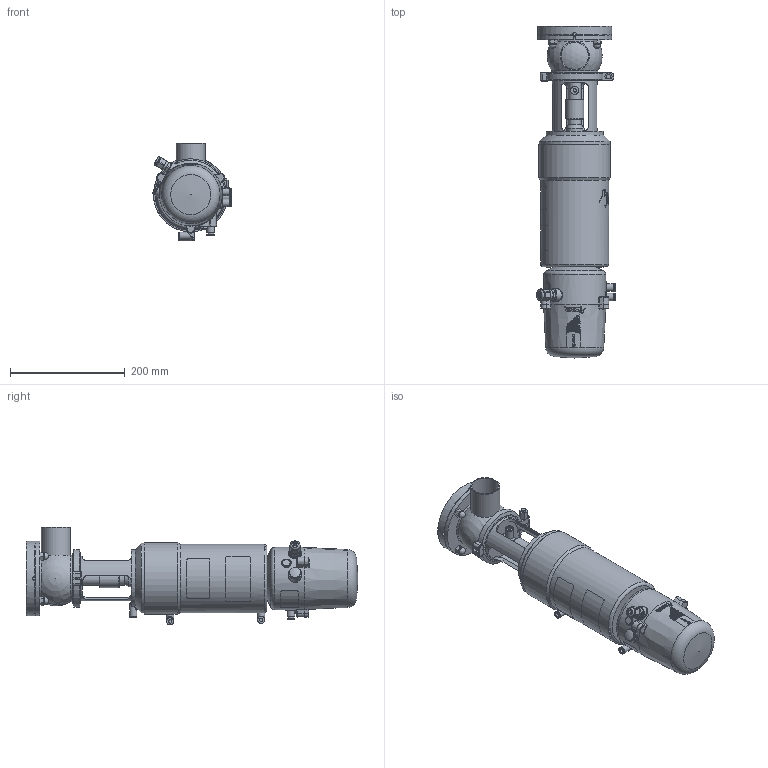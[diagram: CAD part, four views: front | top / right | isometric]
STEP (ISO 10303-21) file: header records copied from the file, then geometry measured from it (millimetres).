
FILE_DESCRIPTION (( 'STEP AP214' ), '1' );
FILE_NAME ('INNOVA T L W OD 2 WITH FLANGE & C-TOP S_10.252.16.0007.STEP', '2024-08-20T12:55:58', ( '' ), ( '' ), 'SwSTEP 2.0', 'SolidWorks 2023', '' );
FILE_SCHEMA (( 'AUTOMOTIVE_DESIGN' ));
Length unit declared in the file: millimetre
Products named in the file (7): 10.252.15.0001_OD 2"; 10.426.15.0001_C-TOP S - 3 EV; 10.250.15.0002_Type T T1; 10.248.15.0003_DIN 050 _ OD 2"; 10.240.15.0001_DN 050; INNOVA T L W OD 2 WITH FLANGE & C-TOP S_10.252.16.0007; 10.240.15.0006_OD 2"
Assembly tree (6 placements, depth 2):
  INNOVA T L W OD 2 WITH FLANGE & C-TOP S_10.252.16.0007
    10.240.15.0006_OD 2"
    10.248.15.0003_DIN 050 _ OD 2"
    10.252.15.0001_OD 2"
    10.250.15.0002_Type T T1
    10.240.15.0001_DN 050
    10.426.15.0001_C-TOP S - 3 EV
Bounding box: 137.63 x 579.83 x 171 mm (x, y, z)
Volume: 4970676.6 mm3; surface area: 379012.3 mm2
Topology: 6 solids, 6 shells, 1199 faces, 2894 edges, 1924 vertices
Faces by surface type: plane 417, cylinder 380, cone 196, bspline 163, torus 33, sphere 10
Full cylindrical faces by diameter (mm): 0.371 x17, 0.512 x16, 0.658 x16, 0.795 x16, 0.94 x15, 1.098 x15, 1.241 x13, 1.382 x13, 1.523 x11, 1.669 x10, 2.201 x1, 4.2 x2, 5 x1, 5.5 x2, 6 x5, 6.15 x3, 8 x3, 10 x1, 10.5 x3, 11 x4, 12 x1, 12.5 x13, 13 x6, 13.5 x2, 14 x2, 17 x3, 20 x2, 22 x2, 23 x2, 28 x1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
Entity records: 60617 total; most frequent: CARTESIAN_POINT 28327, ORIENTED_EDGE 4894, DIRECTION 4019, EDGE_CURVE 2447, VERTEX_POINT 1739, EDGE_LOOP 1688, AXIS2_PLACEMENT_3D 1624, FACE_OUTER_BOUND 1429
